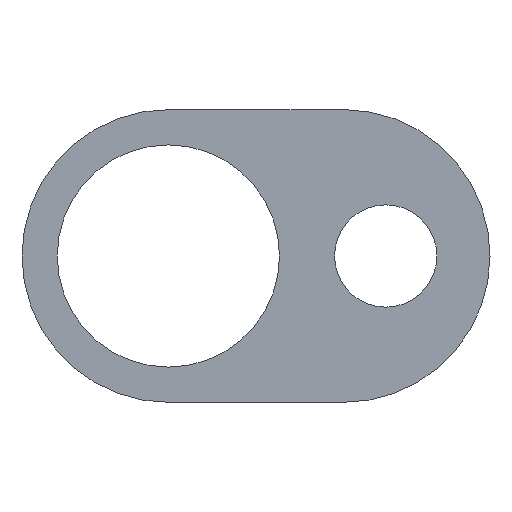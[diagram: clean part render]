
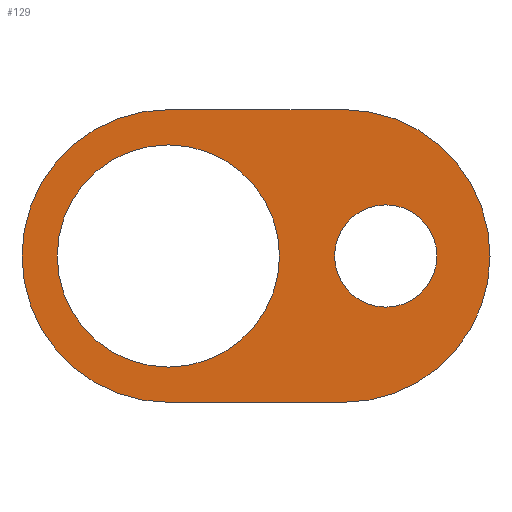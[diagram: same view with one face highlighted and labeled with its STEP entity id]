
A CAD part, front view. The second image highlights one B-rep face of the part: STEP entity #129.
In plain terms, the highlighted planar face has unit normal (0, -1, 0).
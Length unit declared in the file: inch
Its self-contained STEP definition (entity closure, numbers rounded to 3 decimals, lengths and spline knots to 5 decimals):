
#40 = ORIENTED_EDGE ( 'NONE', *, *, #172, .T. ) ;
#50 = EDGE_LOOP ( 'NONE', ( #65, #66, #67, #68 ) ) ;
#57 = EDGE_LOOP ( 'NONE', ( #75, #76 ) ) ;
#65 = ORIENTED_EDGE ( 'NONE', *, *, #169, .F. ) ;
#66 = ORIENTED_EDGE ( 'NONE', *, *, #155, .F. ) ;
#67 = ORIENTED_EDGE ( 'NONE', *, *, #161, .T. ) ;
#68 = ORIENTED_EDGE ( 'NONE', *, *, #166, .F. ) ;
#75 = ORIENTED_EDGE ( 'NONE', *, *, #159, .T. ) ;
#76 = ORIENTED_EDGE ( 'NONE', *, *, #157, .T. ) ;
#91 = ORIENTED_EDGE ( 'NONE', *, *, #160, .T. ) ;
#96 = CIRCLE ( 'NONE', #137, 0.49252 ) ;
#97 = LINE ( 'NONE', #249, #98 ) ;
#98 = VECTOR ( 'NONE', #248, 39.37008 ) ;
#106 = CIRCLE ( 'NONE', #168, 0.172 ) ;
#107 = LINE ( 'NONE', #271, #110 ) ;
#108 = CIRCLE ( 'NONE', #154, 0.37402 ) ;
#110 = VECTOR ( 'NONE', #265, 39.37008 ) ;
#112 = CIRCLE ( 'NONE', #143, 0.37402 ) ;
#114 = CIRCLE ( 'NONE', #147, 0.4925 ) ;
#120 = FACE_OUTER_BOUND ( 'NONE', #50, .T. ) ;
#121 = FACE_BOUND ( 'NONE', #363, .T. ) ;
#123 = FACE_BOUND ( 'NONE', #57, .T. ) ;
#127 = CIRCLE ( 'NONE', #132, 0.172 ) ;
#129 = ADVANCED_FACE ( 'NONE', ( #123, #121, #120 ), #295, .F. ) ;
#132 = AXIS2_PLACEMENT_3D ( 'NONE', #246, #239, #238 ) ;
#137 = AXIS2_PLACEMENT_3D ( 'NONE', #257, #255, #254 ) ;
#140 = AXIS2_PLACEMENT_3D ( 'NONE', #296, #289, #288 ) ;
#143 = AXIS2_PLACEMENT_3D ( 'NONE', #278, #277, #276 ) ;
#147 = AXIS2_PLACEMENT_3D ( 'NONE', #287, #282, #281 ) ;
#154 = AXIS2_PLACEMENT_3D ( 'NONE', #272, #270, #269 ) ;
#155 = EDGE_CURVE ( 'NONE', #329, #328, #114, .T. ) ;
#157 = EDGE_CURVE ( 'NONE', #336, #335, #112, .T. ) ;
#159 = EDGE_CURVE ( 'NONE', #335, #336, #108, .T. ) ;
#160 = EDGE_CURVE ( 'NONE', #327, #325, #106, .T. ) ;
#161 = EDGE_CURVE ( 'NONE', #329, #338, #107, .T. ) ;
#166 = EDGE_CURVE ( 'NONE', #340, #338, #96, .T. ) ;
#168 = AXIS2_PLACEMENT_3D ( 'NONE', #274, #268, #267 ) ;
#169 = EDGE_CURVE ( 'NONE', #328, #340, #97, .T. ) ;
#172 = EDGE_CURVE ( 'NONE', #325, #327, #127, .T. ) ;
#210 = CARTESIAN_POINT ( 'NONE',  ( 0.59551, 0., 0.4925 ) ) ;
#212 = CARTESIAN_POINT ( 'NONE',  ( 0.59, 0., -0.4925 ) ) ;
#214 = CARTESIAN_POINT ( 'NONE',  ( 0., 0., 0.37402 ) ) ;
#215 = CARTESIAN_POINT ( 'NONE',  ( 0., 0., -0.37402 ) ) ;
#217 = CARTESIAN_POINT ( 'NONE',  ( 0., 0., -0.4925 ) ) ;
#218 = CARTESIAN_POINT ( 'NONE',  ( 0., 0., 0.4925 ) ) ;
#223 = CARTESIAN_POINT ( 'NONE',  ( 0.7315, 0., 0.172 ) ) ;
#229 = CARTESIAN_POINT ( 'NONE',  ( 0.7315, 0., -0.172 ) ) ;
#238 = DIRECTION ( 'NONE',  ( 0., 0., 1. ) ) ;
#239 = DIRECTION ( 'NONE',  ( 0., 1., 0. ) ) ;
#246 = CARTESIAN_POINT ( 'NONE',  ( 0.7315, 0., 0. ) ) ;
#248 = DIRECTION ( 'NONE',  ( 1., 0., 0. ) ) ;
#249 = CARTESIAN_POINT ( 'NONE',  ( -1.15548, 0., 0.4925 ) ) ;
#254 = DIRECTION ( 'NONE',  ( 0., 0., 1. ) ) ;
#255 = DIRECTION ( 'NONE',  ( 0., 1., 0. ) ) ;
#257 = CARTESIAN_POINT ( 'NONE',  ( 0.59, 0., 0.00002 ) ) ;
#265 = DIRECTION ( 'NONE',  ( 1., 0., 0. ) ) ;
#267 = DIRECTION ( 'NONE',  ( 0., 0., 1. ) ) ;
#268 = DIRECTION ( 'NONE',  ( 0., 1., 0. ) ) ;
#269 = DIRECTION ( 'NONE',  ( 0., 0., 1. ) ) ;
#270 = DIRECTION ( 'NONE',  ( 0., 1., 0. ) ) ;
#271 = CARTESIAN_POINT ( 'NONE',  ( -1.15548, 0., -0.4925 ) ) ;
#272 = CARTESIAN_POINT ( 'NONE',  ( 0., 0., 0. ) ) ;
#274 = CARTESIAN_POINT ( 'NONE',  ( 0.7315, 0., 0. ) ) ;
#276 = DIRECTION ( 'NONE',  ( 0., 0., 1. ) ) ;
#277 = DIRECTION ( 'NONE',  ( 0., 1., 0. ) ) ;
#278 = CARTESIAN_POINT ( 'NONE',  ( 0., 0., 0. ) ) ;
#281 = DIRECTION ( 'NONE',  ( 0., 0., 1. ) ) ;
#282 = DIRECTION ( 'NONE',  ( 0., 1., 0. ) ) ;
#287 = CARTESIAN_POINT ( 'NONE',  ( 0., 0., 0. ) ) ;
#288 = DIRECTION ( 'NONE',  ( 0., 0., 1. ) ) ;
#289 = DIRECTION ( 'NONE',  ( 0., 1., 0. ) ) ;
#295 = PLANE ( 'NONE',  #140 ) ;
#296 = CARTESIAN_POINT ( 'NONE',  ( -1.15548, 0., 0. ) ) ;
#325 = VERTEX_POINT ( 'NONE', #229 ) ;
#327 = VERTEX_POINT ( 'NONE', #223 ) ;
#328 = VERTEX_POINT ( 'NONE', #218 ) ;
#329 = VERTEX_POINT ( 'NONE', #217 ) ;
#335 = VERTEX_POINT ( 'NONE', #215 ) ;
#336 = VERTEX_POINT ( 'NONE', #214 ) ;
#338 = VERTEX_POINT ( 'NONE', #212 ) ;
#340 = VERTEX_POINT ( 'NONE', #210 ) ;
#363 = EDGE_LOOP ( 'NONE', ( #40, #91 ) ) ;
